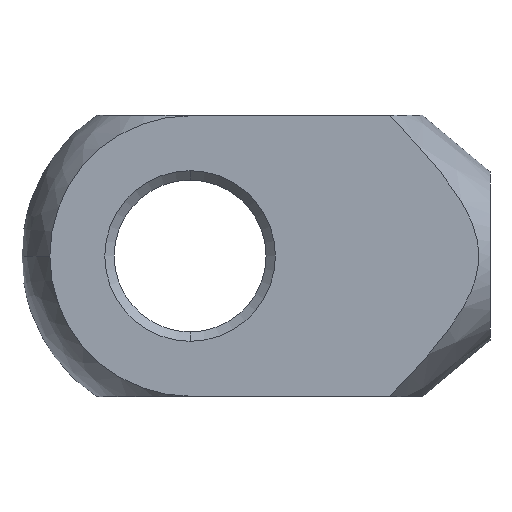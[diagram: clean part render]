
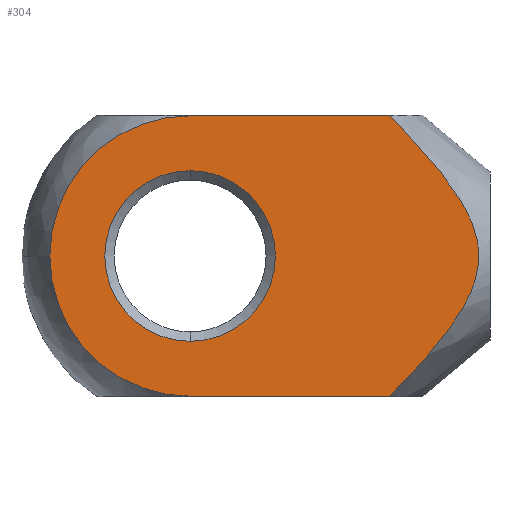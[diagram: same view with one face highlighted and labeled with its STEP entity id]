
A CAD part, left-side view. The second image highlights one B-rep face of the part: STEP entity #304.
In plain terms, the highlighted planar face has unit normal (-1, 0, 0).
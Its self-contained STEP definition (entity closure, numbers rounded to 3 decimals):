
#15 = CARTESIAN_POINT ( 'NONE',  ( -5., 2.798, 4.702 ) ) ;
#21 = CARTESIAN_POINT ( 'NONE',  ( -5., 1.494, -2.859 ) ) ;
#31 = CARTESIAN_POINT ( 'NONE',  ( -5., 1.9, -3.495 ) ) ;
#50 = CARTESIAN_POINT ( 'NONE',  ( -5., 0., -7.483 ) ) ;
#63 = CARTESIAN_POINT ( 'NONE',  ( -5., 16., 4.55 ) ) ;
#85 = VECTOR ( 'NONE', #673, 1000. ) ;
#86 = EDGE_CURVE ( 'NONE', #221, #608, #185, .T. ) ;
#88 = CARTESIAN_POINT ( 'NONE',  ( -5., 1.491, 2.854 ) ) ;
#90 = CARTESIAN_POINT ( 'NONE',  ( -5., 3.291, 5.279 ) ) ;
#96 = DIRECTION ( 'NONE',  ( 0., 0., 1. ) ) ;
#114 = DIRECTION ( 'NONE',  ( 0., 0., 1. ) ) ;
#118 = CARTESIAN_POINT ( 'NONE',  ( -5., 0., 7.483 ) ) ;
#147 = CARTESIAN_POINT ( 'NONE',  ( -5., 23.483, 0. ) ) ;
#153 = CARTESIAN_POINT ( 'NONE',  ( -5., 16., -4.55 ) ) ;
#154 = VERTEX_POINT ( 'NONE', #147 ) ;
#157 = CARTESIAN_POINT ( 'NONE',  ( -5., 1.303, 2.527 ) ) ;
#185 = LINE ( 'NONE', #50, #338 ) ;
#200 = DIRECTION ( 'NONE',  ( 1., 0., 0. ) ) ;
#221 = VERTEX_POINT ( 'NONE', #303 ) ;
#227 = EDGE_CURVE ( 'NONE', #154, #846, #841, .T. ) ;
#232 = CARTESIAN_POINT ( 'NONE',  ( -5., 4.83, 6.946 ) ) ;
#237 = EDGE_LOOP ( 'NONE', ( #294, #616, #642, #907, #354 ) ) ;
#239 = CARTESIAN_POINT ( 'NONE',  ( -5., 0.794, -1.311 ) ) ;
#243 = CARTESIAN_POINT ( 'NONE',  ( -5., 4.831, -6.946 ) ) ;
#255 = ORIENTED_EDGE ( 'NONE', *, *, #371, .F. ) ;
#273 = LINE ( 'NONE', #118, #85 ) ;
#290 = AXIS2_PLACEMENT_3D ( 'NONE', #415, #200, #695 ) ;
#294 = ORIENTED_EDGE ( 'NONE', *, *, #656, .F. ) ;
#303 = CARTESIAN_POINT ( 'NONE',  ( -5., 5.363, -7.483 ) ) ;
#304 = ADVANCED_FACE ( 'NONE', ( #515, #502 ), #382, .F. ) ;
#318 = CARTESIAN_POINT ( 'NONE',  ( -5., 0.596, 0.185 ) ) ;
#322 = CARTESIAN_POINT ( 'NONE',  ( -5., 3.295, -5.283 ) ) ;
#338 = VECTOR ( 'NONE', #623, 1000. ) ;
#347 = CARTESIAN_POINT ( 'NONE',  ( -5., 0.659, 0.753 ) ) ;
#352 = ORIENTED_EDGE ( 'NONE', *, *, #702, .F. ) ;
#354 = ORIENTED_EDGE ( 'NONE', *, *, #86, .F. ) ;
#359 = AXIS2_PLACEMENT_3D ( 'NONE', #521, #894, #114 ) ;
#371 = EDGE_CURVE ( 'NONE', #505, #536, #796, .T. ) ;
#382 = PLANE ( 'NONE',  #843 ) ;
#387 = CIRCLE ( 'NONE', #878, 4.55 ) ;
#388 = CARTESIAN_POINT ( 'NONE',  ( -5., 0.987, -1.849 ) ) ;
#401 = CARTESIAN_POINT ( 'NONE',  ( -5., 16., 7.483 ) ) ;
#415 = CARTESIAN_POINT ( 'NONE',  ( -5., 16., 0. ) ) ;
#444 = CARTESIAN_POINT ( 'NONE',  ( -5., 0.597, -0.389 ) ) ;
#446 = EDGE_CURVE ( 'NONE', #608, #154, #601, .T. ) ;
#450 = CARTESIAN_POINT ( 'NONE',  ( -5., 1.062, -2.022 ) ) ;
#451 = CARTESIAN_POINT ( 'NONE',  ( -5., 16., 0. ) ) ;
#461 = CARTESIAN_POINT ( 'NONE',  ( -5., 0.609, 0.376 ) ) ;
#502 = FACE_OUTER_BOUND ( 'NONE', #237, .T. ) ;
#505 = VERTEX_POINT ( 'NONE', #63 ) ;
#515 = FACE_BOUND ( 'NONE', #786, .T. ) ;
#521 = CARTESIAN_POINT ( 'NONE',  ( -5., 16., 0. ) ) ;
#536 = VERTEX_POINT ( 'NONE', #153 ) ;
#573 = CARTESIAN_POINT ( 'NONE',  ( -5., 5.363, 7.483 ) ) ;
#576 = CARTESIAN_POINT ( 'NONE',  ( -5., 1.896, 3.489 ) ) ;
#581 = CARTESIAN_POINT ( 'NONE',  ( -5., 0.65, -0.763 ) ) ;
#595 = CARTESIAN_POINT ( 'NONE',  ( -5., 2.804, -4.71 ) ) ;
#601 = CIRCLE ( 'NONE', #290, 7.483 ) ;
#608 = VERTEX_POINT ( 'NONE', #785 ) ;
#616 = ORIENTED_EDGE ( 'NONE', *, *, #800, .F. ) ;
#623 = DIRECTION ( 'NONE',  ( 0., 1., 0. ) ) ;
#634 = B_SPLINE_CURVE_WITH_KNOTS ( 'NONE', 3,
 ( #573, #232, #647, #90, #15, #880, #576, #88, #157, #649, #817, #892, #347, #461, #318, #444, #581, #239, #659, #388, #450, #808, #21, #31, #740, #595, #322, #867, #243, #876 ),
 .UNSPECIFIED., .F., .F.,
 ( 4, 2, 2, 2, 2, 2, 2, 2, 2, 2, 2, 2, 2, 2, 4 ),
 ( 0., 0.002, 0.005, 0.006, 0.007, 0.008, 0.009, 0.009, 0.01, 0.011, 0.011, 0.012, 0.014, 0.016, 0.018 ),
 .UNSPECIFIED. ) ;
#642 = ORIENTED_EDGE ( 'NONE', *, *, #227, .F. ) ;
#647 = CARTESIAN_POINT ( 'NONE',  ( -5., 4.306, 6.4 ) ) ;
#649 = CARTESIAN_POINT ( 'NONE',  ( -5., 0.976, 1.841 ) ) ;
#656 = EDGE_CURVE ( 'NONE', #753, #221, #634, .T. ) ;
#659 = CARTESIAN_POINT ( 'NONE',  ( -5., 0.853, -1.493 ) ) ;
#660 = DIRECTION ( 'NONE',  ( 1., 0., 0. ) ) ;
#664 = AXIS2_PLACEMENT_3D ( 'NONE', #451, #660, #665 ) ;
#665 = DIRECTION ( 'NONE',  ( 0., 0., -1. ) ) ;
#668 = DIRECTION ( 'NONE',  ( -1., 0., 0. ) ) ;
#673 = DIRECTION ( 'NONE',  ( 0., -1., 0. ) ) ;
#695 = DIRECTION ( 'NONE',  ( 0., 0., -1. ) ) ;
#702 = EDGE_CURVE ( 'NONE', #536, #505, #387, .T. ) ;
#728 = CARTESIAN_POINT ( 'NONE',  ( -5., 0., 7.5 ) ) ;
#733 = DIRECTION ( 'NONE',  ( 1., 0., 0. ) ) ;
#740 = CARTESIAN_POINT ( 'NONE',  ( -5., 2.12, -3.805 ) ) ;
#753 = VERTEX_POINT ( 'NONE', #821 ) ;
#785 = CARTESIAN_POINT ( 'NONE',  ( -5., 16., -7.483 ) ) ;
#786 = EDGE_LOOP ( 'NONE', ( #255, #352 ) ) ;
#796 = CIRCLE ( 'NONE', #359, 4.55 ) ;
#800 = EDGE_CURVE ( 'NONE', #846, #753, #273, .T. ) ;
#803 = CARTESIAN_POINT ( 'NONE',  ( -5., 16., 0. ) ) ;
#808 = CARTESIAN_POINT ( 'NONE',  ( -5., 1.306, -2.532 ) ) ;
#817 = CARTESIAN_POINT ( 'NONE',  ( -5., 0.839, 1.486 ) ) ;
#821 = CARTESIAN_POINT ( 'NONE',  ( -5., 5.363, 7.483 ) ) ;
#841 = CIRCLE ( 'NONE', #664, 7.483 ) ;
#843 = AXIS2_PLACEMENT_3D ( 'NONE', #728, #733, #870 ) ;
#846 = VERTEX_POINT ( 'NONE', #401 ) ;
#867 = CARTESIAN_POINT ( 'NONE',  ( -5., 4.308, -6.402 ) ) ;
#870 = DIRECTION ( 'NONE',  ( 0., 0., -1. ) ) ;
#876 = CARTESIAN_POINT ( 'NONE',  ( -5., 5.363, -7.483 ) ) ;
#878 = AXIS2_PLACEMENT_3D ( 'NONE', #803, #668, #96 ) ;
#880 = CARTESIAN_POINT ( 'NONE',  ( -5., 2.114, 3.797 ) ) ;
#892 = CARTESIAN_POINT ( 'NONE',  ( -5., 0.696, 0.939 ) ) ;
#894 = DIRECTION ( 'NONE',  ( -1., 0., 0. ) ) ;
#907 = ORIENTED_EDGE ( 'NONE', *, *, #446, .F. ) ;
